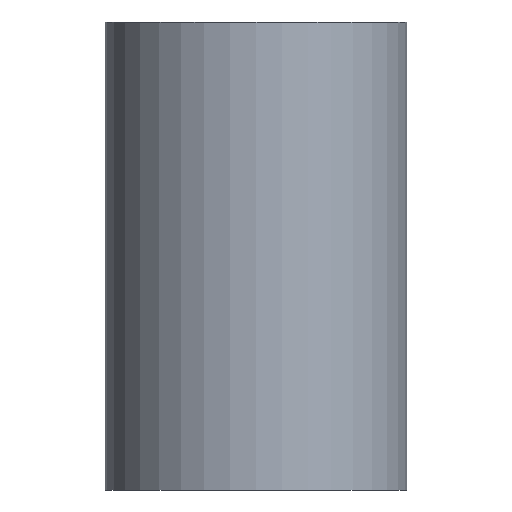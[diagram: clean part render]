
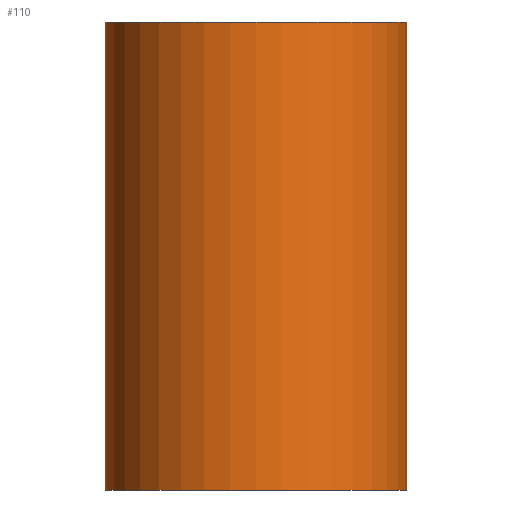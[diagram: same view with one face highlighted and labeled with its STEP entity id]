
A CAD part, front view. The second image highlights one B-rep face of the part: STEP entity #110.
In plain terms, the highlighted cylindrical face has radius 5 mm (diameter 10 mm), a partial arc.
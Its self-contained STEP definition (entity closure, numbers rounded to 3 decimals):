
#2 = FACE_OUTER_BOUND ( 'NONE', #180, .T. ) ;
#3 = ORIENTED_EDGE ( 'NONE', *, *, #206, .T. ) ;
#19 = LINE ( 'NONE', #84, #23 ) ;
#22 = DIRECTION ( 'NONE',  ( 0., 0., 1. ) ) ;
#23 = VECTOR ( 'NONE', #199, 1000. ) ;
#25 = AXIS2_PLACEMENT_3D ( 'NONE', #51, #122, #167 ) ;
#30 = ORIENTED_EDGE ( 'NONE', *, *, #97, .T. ) ;
#51 = CARTESIAN_POINT ( 'NONE',  ( 0., 0., 15.5 ) ) ;
#53 = VECTOR ( 'NONE', #58, 1000. ) ;
#54 = LINE ( 'NONE', #204, #53 ) ;
#56 = CIRCLE ( 'NONE', #212, 5. ) ;
#58 = DIRECTION ( 'NONE',  ( 0., 0., -1. ) ) ;
#61 = VERTEX_POINT ( 'NONE', #107 ) ;
#62 = CARTESIAN_POINT ( 'NONE',  ( 5., 0., 15.5 ) ) ;
#74 = CARTESIAN_POINT ( 'NONE',  ( 0., 0., 0. ) ) ;
#83 = VERTEX_POINT ( 'NONE', #62 ) ;
#84 = CARTESIAN_POINT ( 'NONE',  ( -5., 0., 15.5 ) ) ;
#97 = EDGE_CURVE ( 'NONE', #201, #61, #19, .T. ) ;
#105 = DIRECTION ( 'NONE',  ( 0., 0., 1. ) ) ;
#107 = CARTESIAN_POINT ( 'NONE',  ( -5., 0., 0. ) ) ;
#110 = ADVANCED_FACE ( 'NONE', ( #2 ), #202, .T. ) ;
#122 = DIRECTION ( 'NONE',  ( 0., 0., -1. ) ) ;
#130 = EDGE_CURVE ( 'NONE', #201, #83, #56, .T. ) ;
#138 = EDGE_CURVE ( 'NONE', #83, #161, #54, .T. ) ;
#142 = CARTESIAN_POINT ( 'NONE',  ( -5., 0., 15.5 ) ) ;
#155 = DIRECTION ( 'NONE',  ( 1., 0., 0. ) ) ;
#160 = CIRCLE ( 'NONE', #191, 5. ) ;
#161 = VERTEX_POINT ( 'NONE', #174 ) ;
#167 = DIRECTION ( 'NONE',  ( -1., 0., 0. ) ) ;
#169 = DIRECTION ( 'NONE',  ( 1., 0., 0. ) ) ;
#174 = CARTESIAN_POINT ( 'NONE',  ( 5., 0., 0. ) ) ;
#180 = EDGE_LOOP ( 'NONE', ( #182, #213, #30, #3 ) ) ;
#182 = ORIENTED_EDGE ( 'NONE', *, *, #138, .F. ) ;
#186 = CARTESIAN_POINT ( 'NONE',  ( 0., 0., 15.5 ) ) ;
#191 = AXIS2_PLACEMENT_3D ( 'NONE', #74, #22, #155 ) ;
#199 = DIRECTION ( 'NONE',  ( 0., 0., -1. ) ) ;
#201 = VERTEX_POINT ( 'NONE', #142 ) ;
#202 = CYLINDRICAL_SURFACE ( 'NONE', #25, 5. ) ;
#204 = CARTESIAN_POINT ( 'NONE',  ( 5., 0., 15.5 ) ) ;
#206 = EDGE_CURVE ( 'NONE', #61, #161, #160, .T. ) ;
#212 = AXIS2_PLACEMENT_3D ( 'NONE', #186, #105, #169 ) ;
#213 = ORIENTED_EDGE ( 'NONE', *, *, #130, .F. ) ;
